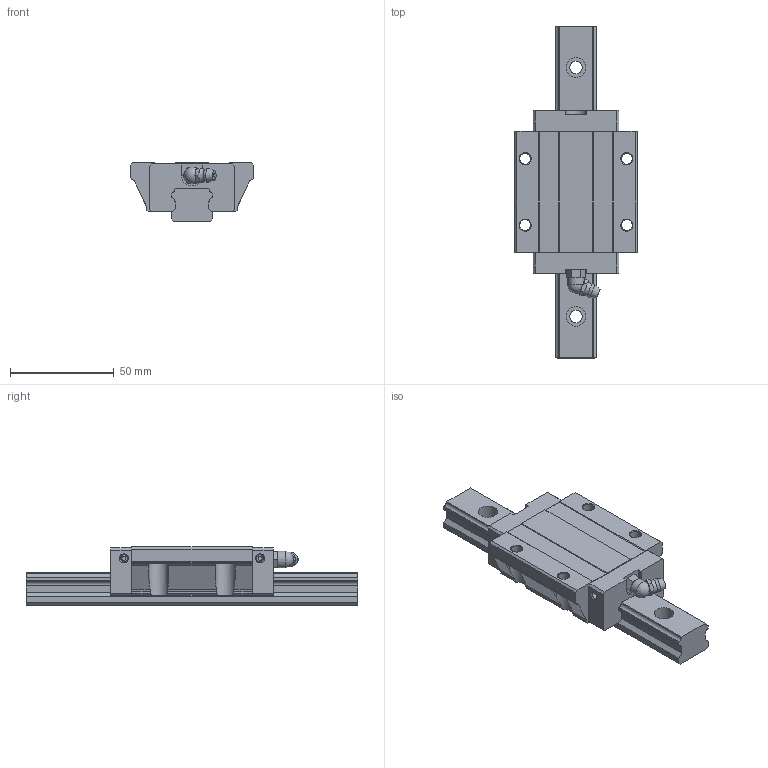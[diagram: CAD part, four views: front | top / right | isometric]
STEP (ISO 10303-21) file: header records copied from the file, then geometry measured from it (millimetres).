
FILE_DESCRIPTION(/* description */ (''),/* implementation_level */ '2;1');
FILE_NAME(/* name */ 'SME20-EB',/* time_stamp */ '2008-10-06T10:10:33+08:00',/* author */ (''),/* organization */ (''),/* preprocessor_version */ 'ST-DEVELOPER v11',/* originating_system */ 'UGS - NX 5.0',/* authorisation */ '');
FILE_SCHEMA (('AUTOMOTIVE_DESIGN { 1 0 10303 214 1 1 1 1 }'));
Length unit declared in the file: millimetre
Products named in the file (1): jillBD1Calgs
Bounding box: 59 x 160 x 28 mm (x, y, z)
Volume: 114838.3 mm3; surface area: 30104.9 mm2
Topology: 3 solids, 3 shells, 210 faces, 565 edges, 374 vertices
Faces by surface type: plane 130, cylinder 61, cone 9, torus 7, sphere 2, bspline 1
Full cylindrical faces by diameter (mm): 2 x4, 3.3 x4, 5.3 x4, 6 x3, 6.5 x2, 8 x1, 9.5 x3
Entity records: 6749 total; most frequent: CARTESIAN_POINT 1307, DIRECTION 1074, ORIENTED_EDGE 1034, EDGE_CURVE 517, AXIS2_PLACEMENT_3D 373, VERTEX_POINT 360, LINE 328, VECTOR 328
